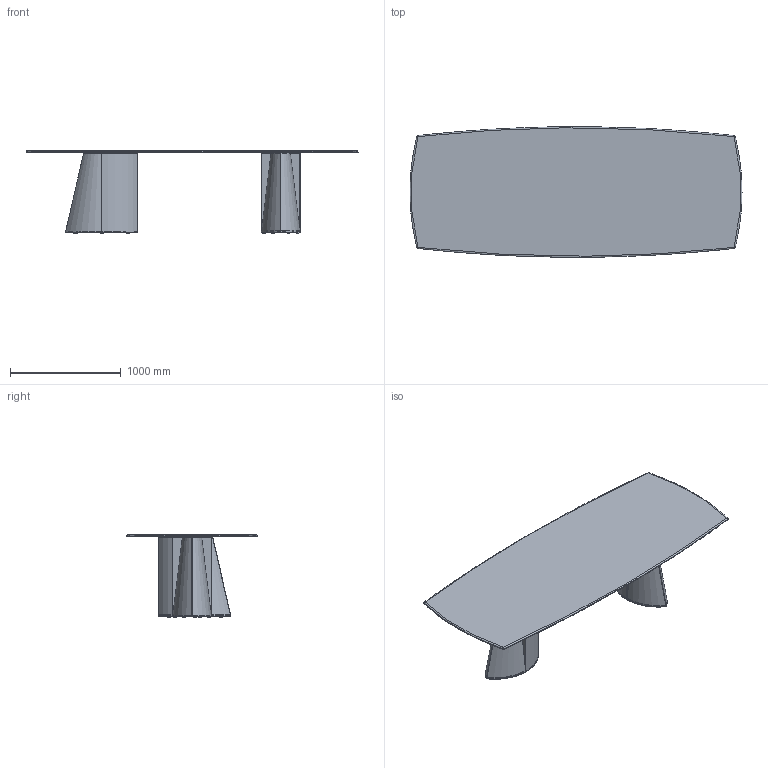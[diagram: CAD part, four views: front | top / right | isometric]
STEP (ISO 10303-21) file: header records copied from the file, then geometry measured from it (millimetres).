
FILE_DESCRIPTION(/* description */ (''),/* implementation_level */ '2;1');
FILE_NAME(/* name */ 'OGIS302_3D',/* time_stamp */ '2026-06-30T09:58:02+02:00',/* author */ (''),/* organization */ (''),/* preprocessor_version */ 'ST-DEVELOPER v16.5',/* originating_system */ '',/* authorisation */ '');
FILE_SCHEMA (('CONFIG_CONTROL_DESIGN'));
Length unit declared in the file: millimetre
Products named in the file (1): Document
Bounding box: 2998.83 x 1179.68 x 745.03 mm (x, y, z)
Volume: 55184449.6 mm3; surface area: 12105310.3 mm2
Topology: 45 solids, 45 shells, 528 faces, 1086 edges, 648 vertices
Faces by surface type: plane 334, bspline 194
Entity records: 16214 total; most frequent: CARTESIAN_POINT 8672, ORIENTED_EDGE 2172, EDGE_CURVE 1086, B_SPLINE_CURVE_WITH_KNOTS 754, VERTEX_POINT 648, EDGE_LOOP 568, ADVANCED_FACE 528, FACE_OUTER_BOUND 528
